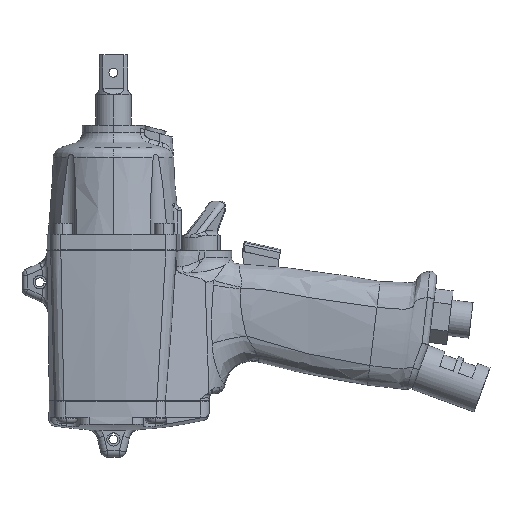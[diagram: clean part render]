
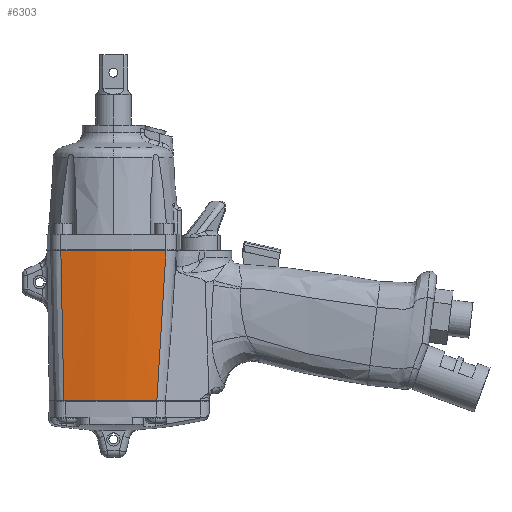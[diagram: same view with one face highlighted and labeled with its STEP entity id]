
A CAD part, left-side view. The second image highlights one B-rep face of the part: STEP entity #6303.
In plain terms, the highlighted free-form (B-spline) face has degree [3, 3] with [4, 8] control points.
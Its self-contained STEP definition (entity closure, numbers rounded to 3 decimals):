
#6222 = EDGE_LOOP ( 'NONE', ( #6224, #6335, #6337, #6341 ) ) ;
#6224 = ORIENTED_EDGE ( 'NONE', *, *, #6250, .F. ) ;
#6246 = VERTEX_POINT ( 'NONE', #36126 ) ;
#6250 = EDGE_CURVE ( 'NONE', #6246, #6252, #36120, .T. ) ;
#6252 = VERTEX_POINT ( 'NONE', #36115 ) ;
#6301 = EDGE_CURVE ( 'NONE', #6246, #10781, #36246, .T. ) ;
#6303 = ADVANCED_FACE ( 'NONE', ( #36238 ), #36232, .T. ) ;
#6335 = ORIENTED_EDGE ( 'NONE', *, *, #6301, .T. ) ;
#6337 = ORIENTED_EDGE ( 'NONE', *, *, #10717, .T. ) ;
#6341 = ORIENTED_EDGE ( 'NONE', *, *, #6342, .F. ) ;
#6342 = EDGE_CURVE ( 'NONE', #6252, #10807, #36412, .T. ) ;
#10717 = EDGE_CURVE ( 'NONE', #10781, #10807, #86500, .T. ) ;
#10781 = VERTEX_POINT ( 'NONE', #86709 ) ;
#10807 = VERTEX_POINT ( 'NONE', #86721 ) ;
#36115 = CARTESIAN_POINT ( 'NONE',  ( -28.137, -23.569, 0. ) ) ;
#36116 = DIRECTION ( 'NONE',  ( 1., 0., 0. ) ) ;
#36117 = DIRECTION ( 'NONE',  ( 0., 0., 1. ) ) ;
#36118 = CARTESIAN_POINT ( 'NONE',  ( 120., 0., 0. ) ) ;
#36119 = AXIS2_PLACEMENT_3D ( 'NONE', #36118, #36117, #36116 ) ;
#36120 = CIRCLE ( 'NONE', #36119, 150. ) ;
#36126 = CARTESIAN_POINT ( 'NONE',  ( -28.137, 23.569, 0. ) ) ;
#36232 =( BOUNDED_SURFACE ( )  B_SPLINE_SURFACE ( 3, 3, ( 
 ( #36281, #36280, #36279, #36278, #36277, #36276, #36275, #36274 ),
 ( #36273, #36272, #36271, #36270, #36269, #36268, #36267, #36266 ),
 ( #36265, #36264, #36263, #36262, #36261, #36260, #36259, #36258 ),
 ( #36257, #36256, #36255, #36254, #36253, #36252, #36251, #36250 ) ),
 .UNSPECIFIED., .F., .F., .T. ) 
 B_SPLINE_SURFACE_WITH_KNOTS ( ( 4, 4 ),
 ( 4, 1, 1, 1, 1, 4 ),
 ( 0.625, 0.75 ),
 ( 0., 0.167, 0.333, 0.667, 0.833, 1. ),
 .UNSPECIFIED. ) 
 GEOMETRIC_REPRESENTATION_ITEM ( )  RATIONAL_B_SPLINE_SURFACE ( (
 ( 1., 1., 1., 1., 1., 1., 1., 1.),
 ( 0.992, 0.992, 0.992, 0.991, 0.991, 0.99, 0.99, 0.99),
 ( 0.992, 0.992, 0.992, 0.991, 0.991, 0.99, 0.99, 0.99),
 ( 1., 1., 1., 1., 1., 1., 1., 1.) ) ) 
 REPRESENTATION_ITEM ( '' )  SURFACE ( )  );
#36238 = FACE_OUTER_BOUND ( 'NONE', #6222, .T. ) ;
#36243 = DIRECTION ( 'NONE',  ( 0.024, -0.02, -1. ) ) ;
#36244 = VECTOR ( 'NONE', #36243, 1000. ) ;
#36245 = CARTESIAN_POINT ( 'NONE',  ( -27.317, 22.899, -33.5 ) ) ;
#36246 = LINE ( 'NONE', #36245, #36244 ) ;
#36250 = CARTESIAN_POINT ( 'NONE',  ( -26.497, 22.229, -67. ) ) ;
#36251 = CARTESIAN_POINT ( 'NONE',  ( -26.588, 22.304, -63.278 ) ) ;
#36252 = CARTESIAN_POINT ( 'NONE',  ( -26.77, 22.452, -55.833 ) ) ;
#36253 = CARTESIAN_POINT ( 'NONE',  ( -27.135, 22.75, -40.944 ) ) ;
#36254 = CARTESIAN_POINT ( 'NONE',  ( -27.499, 23.048, -26.056 ) ) ;
#36255 = CARTESIAN_POINT ( 'NONE',  ( -27.863, 23.346, -11.167 ) ) ;
#36256 = CARTESIAN_POINT ( 'NONE',  ( -28.046, 23.495, -3.722 ) ) ;
#36257 = CARTESIAN_POINT ( 'NONE',  ( -28.137, 23.569, 0. ) ) ;
#36258 = CARTESIAN_POINT ( 'NONE',  ( -29.354, 8.462, -67. ) ) ;
#36259 = CARTESIAN_POINT ( 'NONE',  ( -29.431, 8.446, -62.982 ) ) ;
#36260 = CARTESIAN_POINT ( 'NONE',  ( -29.585, 8.414, -54.949 ) ) ;
#36261 = CARTESIAN_POINT ( 'NONE',  ( -29.878, 8.308, -39.657 ) ) ;
#36262 = CARTESIAN_POINT ( 'NONE',  ( -30.161, 8.187, -24.756 ) ) ;
#36263 = CARTESIAN_POINT ( 'NONE',  ( -30.435, 8.052, -10.259 ) ) ;
#36264 = CARTESIAN_POINT ( 'NONE',  ( -30.562, 7.965, -3.419 ) ) ;
#36265 = CARTESIAN_POINT ( 'NONE',  ( -30.626, 7.922, 0. ) ) ;
#36266 = CARTESIAN_POINT ( 'NONE',  ( -29.772, -5.592, -67. ) ) ;
#36267 = CARTESIAN_POINT ( 'NONE',  ( -29.821, -5.727, -63.088 ) ) ;
#36268 = CARTESIAN_POINT ( 'NONE',  ( -29.919, -5.997, -55.267 ) ) ;
#36269 = CARTESIAN_POINT ( 'NONE',  ( -30.112, -6.521, -40.113 ) ) ;
#36270 = CARTESIAN_POINT ( 'NONE',  ( -30.302, -7.039, -25.208 ) ) ;
#36271 = CARTESIAN_POINT ( 'NONE',  ( -30.489, -7.551, -10.573 ) ) ;
#36272 = CARTESIAN_POINT ( 'NONE',  ( -30.581, -7.798, -3.524 ) ) ;
#36273 = CARTESIAN_POINT ( 'NONE',  ( -30.626, -7.922, 0. ) ) ;
#36274 = CARTESIAN_POINT ( 'NONE',  ( -27.739, -19.504, -67. ) ) ;
#36275 = CARTESIAN_POINT ( 'NONE',  ( -27.761, -19.73, -63.278 ) ) ;
#36276 = CARTESIAN_POINT ( 'NONE',  ( -27.805, -20.182, -55.833 ) ) ;
#36277 = CARTESIAN_POINT ( 'NONE',  ( -27.894, -21.085, -40.944 ) ) ;
#36278 = CARTESIAN_POINT ( 'NONE',  ( -27.982, -21.988, -26.056 ) ) ;
#36279 = CARTESIAN_POINT ( 'NONE',  ( -28.07, -22.892, -11.167 ) ) ;
#36280 = CARTESIAN_POINT ( 'NONE',  ( -28.115, -23.343, -3.722 ) ) ;
#36281 = CARTESIAN_POINT ( 'NONE',  ( -28.137, -23.569, 0. ) ) ;
#36412 = LINE ( 'NONE', #36437, #36436 ) ;
#36435 = DIRECTION ( 'NONE',  ( 0.006, 0.061, -0.998 ) ) ;
#36436 = VECTOR ( 'NONE', #36435, 1000. ) ;
#36437 = CARTESIAN_POINT ( 'NONE',  ( -27.938, -21.537, -33.5 ) ) ;
#86458 = CARTESIAN_POINT ( 'NONE',  ( 91., -2.153, -67. ) ) ;
#86500 = CIRCLE ( 'NONE', #86523, 120. ) ;
#86521 = DIRECTION ( 'NONE',  ( 1., 0., 0. ) ) ;
#86522 = DIRECTION ( 'NONE',  ( 0., 0., 1. ) ) ;
#86523 = AXIS2_PLACEMENT_3D ( 'NONE', #86458, #86522, #86521 ) ;
#86709 = CARTESIAN_POINT ( 'NONE',  ( -26.497, 22.229, -67. ) ) ;
#86721 = CARTESIAN_POINT ( 'NONE',  ( -27.739, -19.504, -67. ) ) ;
